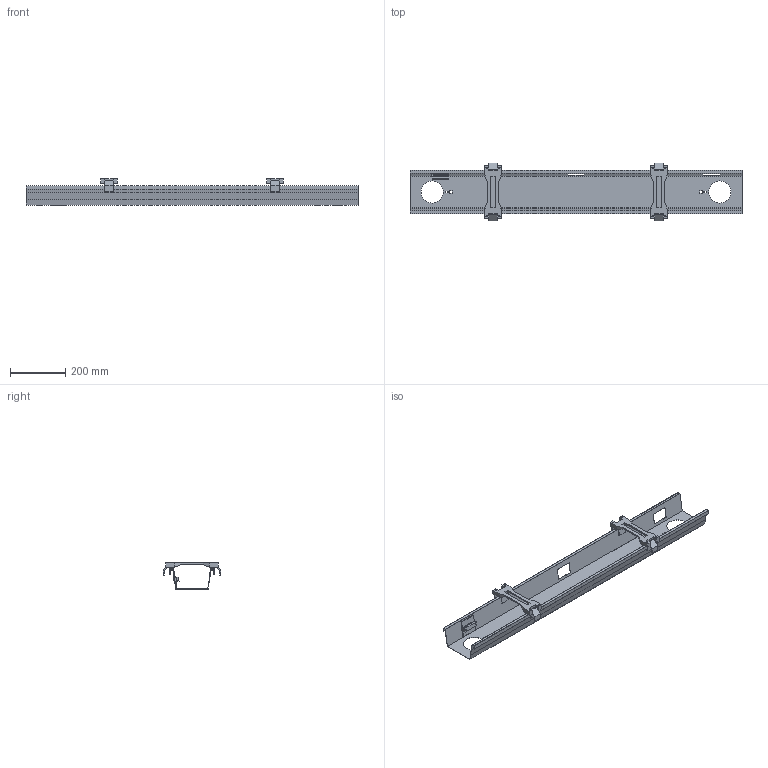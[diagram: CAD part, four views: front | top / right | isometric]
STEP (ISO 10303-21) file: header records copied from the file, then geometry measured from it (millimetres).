
FILE_DESCRIPTION( ( 'STEP AP214' ), '1' );
FILE_NAME( 'C:/Users/KOSH/Desktop/New folder/2021/Actiforce/Export/9309808.stp', '2021-12-03T10:00:54', ( '' ), ( '' ), ' ', 'PARTsolutions', ' ' );
FILE_SCHEMA( ( 'AUTOMOTIVE_DESIGN { 1 0 10303 214 1 1 1 1 }' ) );
Length unit declared in the file: millimetre
Products named in the file (3): 9309808; _clip; _tray
Assembly tree (3 placements, depth 2):
  9309808
    _clip  x2
    _tray
Bounding box: 1200 x 207.5 x 95.5 mm (x, y, z)
Volume: 569802 mm3; surface area: 786016.9 mm2
Topology: 3 solids, 3 shells, 266 faces, 789 edges, 525 vertices
Faces by surface type: plane 242, cylinder 16, cone 8
Full cylindrical faces by diameter (mm): 3 x2, 4.95 x8, 80 x2
Entity records: 7217 total; most frequent: CARTESIAN_POINT 1189, ORIENTED_EDGE 972, DIRECTION 864, EDGE_CURVE 486, LINE 452, VECTOR 452, VERTEX_POINT 330, EDGE_LOOP 222
